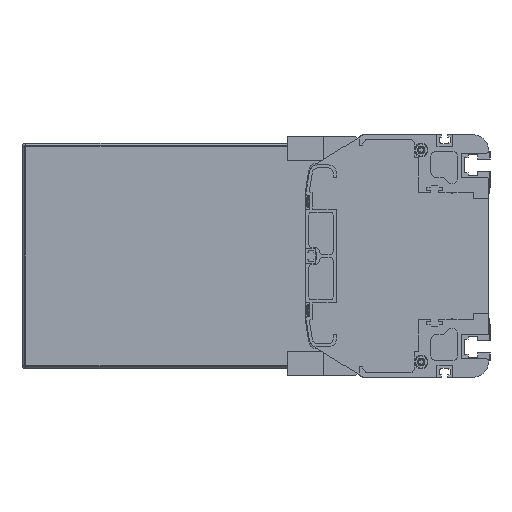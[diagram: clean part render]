
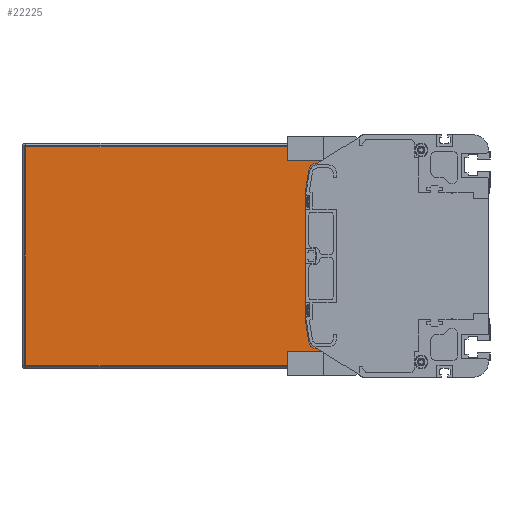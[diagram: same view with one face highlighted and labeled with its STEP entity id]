
A CAD part, left-side view. The second image highlights one B-rep face of the part: STEP entity #22225.
In plain terms, the highlighted planar face has unit normal (-1, 0, 0).
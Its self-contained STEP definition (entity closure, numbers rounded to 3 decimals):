
#1125=DIRECTION('',(0.,0.,-1.));
#1126=VECTOR('',#1125,11.);
#1127=CARTESIAN_POINT('',(1986.5,86.,-61.));
#1128=LINE('',#1127,#1126);
#1134=DIRECTION('',(0.,0.,-1.));
#1135=VECTOR('',#1134,11.);
#1136=CARTESIAN_POINT('',(1986.5,86.,72.));
#1137=LINE('',#1136,#1135);
#1147=DIRECTION('',(0.,-1.,0.));
#1148=VECTOR('',#1147,220.5);
#1149=CARTESIAN_POINT('',(1986.5,306.5,-72.));
#1150=LINE('',#1149,#1148);
#4236=DIRECTION('',(0.,1.,0.));
#4237=VECTOR('',#4236,28.728);
#4238=CARTESIAN_POINT('',(1986.5,86.,-61.));
#4239=LINE('',#4238,#4237);
#4244=CARTESIAN_POINT('',(1986.5,114.728,56.));
#4245=DIRECTION('',(-1.,0.,0.));
#4246=DIRECTION('',(0.,0.,1.));
#4247=AXIS2_PLACEMENT_3D('',#4244,#4245,#4246);
#4249=DIRECTION('',(0.,0.156,-0.988));
#4250=VECTOR('',#4249,14.963);
#4251=CARTESIAN_POINT('',(1986.5,119.666,56.78));
#4252=LINE('',#4251,#4250);
#4253=DIRECTION('',(0.,-0.156,-0.988));
#4254=VECTOR('',#4253,14.963);
#4255=CARTESIAN_POINT('',(1986.5,122.,-42.));
#4256=LINE('',#4255,#4254);
#4257=CARTESIAN_POINT('',(1986.5,114.728,-56.));
#4258=DIRECTION('',(-1.,0.,0.));
#4259=DIRECTION('',(0.,0.988,-0.156));
#4260=AXIS2_PLACEMENT_3D('',#4257,#4258,#4259);
#4266=DIRECTION('',(0.,0.,-1.));
#4267=VECTOR('',#4266,144.);
#4268=CARTESIAN_POINT('',(1986.5,306.5,72.));
#4269=LINE('',#4268,#4267);
#4435=DIRECTION('',(0.,1.,0.));
#4436=VECTOR('',#4435,220.5);
#4437=CARTESIAN_POINT('',(1986.5,86.,72.));
#4438=LINE('',#4437,#4436);
#5021=DIRECTION('',(0.,-1.,0.));
#5022=VECTOR('',#5021,28.728);
#5023=CARTESIAN_POINT('',(1986.5,114.728,61.));
#5024=LINE('',#5023,#5022);
#5037=DIRECTION('',(0.,0.,1.));
#5038=VECTOR('',#5037,84.);
#5039=CARTESIAN_POINT('',(1986.5,122.,-42.));
#5040=LINE('',#5039,#5038);
#14398=CARTESIAN_POINT('',(1986.5,306.5,-72.));
#14399=CARTESIAN_POINT('',(1986.5,86.,-72.));
#14400=VERTEX_POINT('',#14398);
#14401=VERTEX_POINT('',#14399);
#14402=CARTESIAN_POINT('',(1986.5,86.,-61.));
#14403=VERTEX_POINT('',#14402);
#14404=CARTESIAN_POINT('',(1986.5,114.728,-61.));
#14405=VERTEX_POINT('',#14404);
#14406=CARTESIAN_POINT('',(1986.5,119.666,-56.78));
#14407=VERTEX_POINT('',#14406);
#14408=CARTESIAN_POINT('',(1986.5,122.,-42.));
#14409=VERTEX_POINT('',#14408);
#14410=CARTESIAN_POINT('',(1986.5,122.,42.));
#14411=VERTEX_POINT('',#14410);
#14412=CARTESIAN_POINT('',(1986.5,119.666,56.78));
#14413=VERTEX_POINT('',#14412);
#14414=CARTESIAN_POINT('',(1986.5,114.728,61.));
#14415=VERTEX_POINT('',#14414);
#14416=CARTESIAN_POINT('',(1986.5,86.,61.));
#14417=VERTEX_POINT('',#14416);
#14418=CARTESIAN_POINT('',(1986.5,86.,72.));
#14419=VERTEX_POINT('',#14418);
#14420=CARTESIAN_POINT('',(1986.5,306.5,72.));
#14421=VERTEX_POINT('',#14420);
#22198=CARTESIAN_POINT('',(1986.5,196.25,0.));
#22199=DIRECTION('',(1.,0.,0.));
#22200=DIRECTION('',(0.,0.,-1.));
#22201=AXIS2_PLACEMENT_3D('',#22198,#22199,#22200);
#22202=PLANE('',#22201);
#22203=ORIENTED_EDGE('',*,*,#18668,.F.);
#22205=ORIENTED_EDGE('',*,*,#22204,.F.);
#22207=ORIENTED_EDGE('',*,*,#22206,.F.);
#22208=ORIENTED_EDGE('',*,*,#18650,.T.);
#22210=ORIENTED_EDGE('',*,*,#22209,.F.);
#22212=ORIENTED_EDGE('',*,*,#22211,.T.);
#22214=ORIENTED_EDGE('',*,*,#22213,.T.);
#22216=ORIENTED_EDGE('',*,*,#22215,.F.);
#22218=ORIENTED_EDGE('',*,*,#22217,.T.);
#22220=ORIENTED_EDGE('',*,*,#22219,.T.);
#22221=ORIENTED_EDGE('',*,*,#22190,.F.);
#22222=ORIENTED_EDGE('',*,*,#18618,.T.);
#22223=EDGE_LOOP('',(#22203,#22205,#22207,#22208,#22210,#22212,#22214,#22216,
#22218,#22220,#22221,#22222));
#22224=FACE_OUTER_BOUND('',#22223,.F.);
#22225=ADVANCED_FACE('',(#22224),#22202,.F.);
#4248=CIRCLE('',#4247,5.);
#4261=CIRCLE('',#4260,5.);
#18618=EDGE_CURVE('',#14403,#14401,#1128,.T.);
#18650=EDGE_CURVE('',#14419,#14417,#1137,.T.);
#18668=EDGE_CURVE('',#14400,#14401,#1150,.T.);
#22190=EDGE_CURVE('',#14403,#14405,#4239,.T.);
#22204=EDGE_CURVE('',#14421,#14400,#4269,.T.);
#22206=EDGE_CURVE('',#14419,#14421,#4438,.T.);
#22209=EDGE_CURVE('',#14415,#14417,#5024,.T.);
#22211=EDGE_CURVE('',#14415,#14413,#4248,.T.);
#22213=EDGE_CURVE('',#14413,#14411,#4252,.T.);
#22215=EDGE_CURVE('',#14409,#14411,#5040,.T.);
#22217=EDGE_CURVE('',#14409,#14407,#4256,.T.);
#22219=EDGE_CURVE('',#14407,#14405,#4261,.T.);
